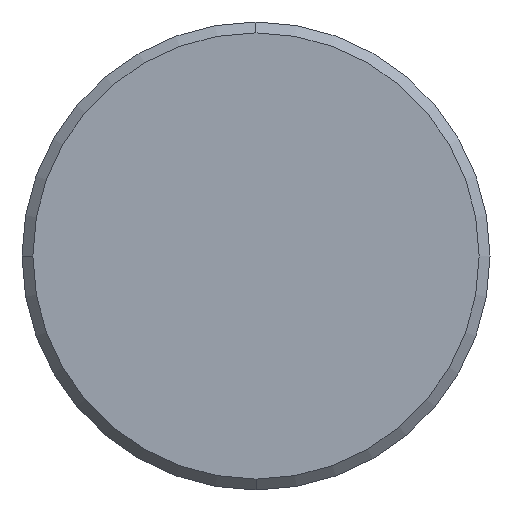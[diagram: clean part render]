
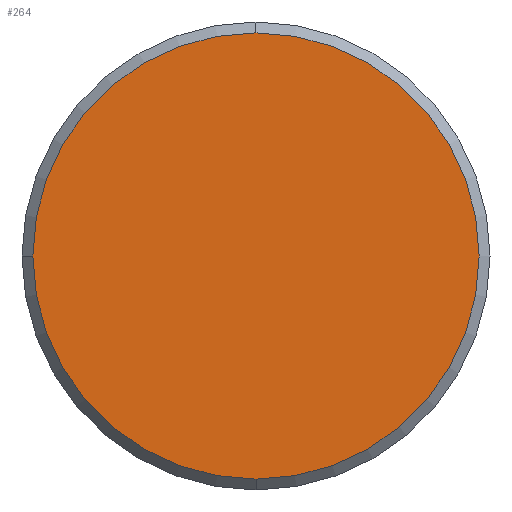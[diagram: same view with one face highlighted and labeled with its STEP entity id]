
A CAD part, left-side view. The second image highlights one B-rep face of the part: STEP entity #264.
In plain terms, the highlighted planar face has unit normal (-1, 0, 0).
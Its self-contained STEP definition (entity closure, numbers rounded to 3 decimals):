
#14 = AXIS2_PLACEMENT_3D ( 'NONE', #484, #531, #896 ) ;
#25 = CIRCLE ( 'NONE', #14, 20.5 ) ;
#31 = AXIS2_PLACEMENT_3D ( 'NONE', #508, #385, #684 ) ;
#94 = AXIS2_PLACEMENT_3D ( 'NONE', #1420, #1421, #1395 ) ;
#128 = EDGE_CURVE ( 'NONE', #1332, #1345, #189, .T. ) ;
#189 = CIRCLE ( 'NONE', #94, 20.5 ) ;
#205 = EDGE_CURVE ( 'NONE', #1561, #1332, #1710, .T. ) ;
#237 = EDGE_CURVE ( 'NONE', #1345, #1561, #25, .T. ) ;
#264 = ADVANCED_FACE ( 'NONE', ( #656 ), #371, .F. ) ;
#371 = PLANE ( 'NONE',  #31 ) ;
#385 = DIRECTION ( 'NONE',  ( 1., 0., 0. ) ) ;
#471 = CARTESIAN_POINT ( 'NONE',  ( 0., 0., 0. ) ) ;
#484 = CARTESIAN_POINT ( 'NONE',  ( 0., 0., 0. ) ) ;
#508 = CARTESIAN_POINT ( 'NONE',  ( 0., -21.758, 21.758 ) ) ;
#531 = DIRECTION ( 'NONE',  ( 1., 0., 0. ) ) ;
#604 = DIRECTION ( 'NONE',  ( 1., 0., 0. ) ) ;
#656 = FACE_OUTER_BOUND ( 'NONE', #1330, .T. ) ;
#684 = DIRECTION ( 'NONE',  ( 0., 0., -1. ) ) ;
#887 = DIRECTION ( 'NONE',  ( 0., 1., 0. ) ) ;
#896 = DIRECTION ( 'NONE',  ( 0., 1., 0. ) ) ;
#1330 = EDGE_LOOP ( 'NONE', ( #1646, #1369, #1475 ) ) ;
#1332 = VERTEX_POINT ( 'NONE', #1919 ) ;
#1345 = VERTEX_POINT ( 'NONE', #1755 ) ;
#1369 = ORIENTED_EDGE ( 'NONE', *, *, #128, .F. ) ;
#1395 = DIRECTION ( 'NONE',  ( 0., 1., 0. ) ) ;
#1420 = CARTESIAN_POINT ( 'NONE',  ( 0., 0., 0. ) ) ;
#1421 = DIRECTION ( 'NONE',  ( 1., 0., 0. ) ) ;
#1475 = ORIENTED_EDGE ( 'NONE', *, *, #205, .F. ) ;
#1561 = VERTEX_POINT ( 'NONE', #1851 ) ;
#1646 = ORIENTED_EDGE ( 'NONE', *, *, #237, .F. ) ;
#1675 = AXIS2_PLACEMENT_3D ( 'NONE', #471, #604, #887 ) ;
#1710 = CIRCLE ( 'NONE', #1675, 20.5 ) ;
#1755 = CARTESIAN_POINT ( 'NONE',  ( 0., 0., 20.5 ) ) ;
#1851 = CARTESIAN_POINT ( 'NONE',  ( 0., 0., -20.5 ) ) ;
#1919 = CARTESIAN_POINT ( 'NONE',  ( 0., 20.5, 0. ) ) ;
